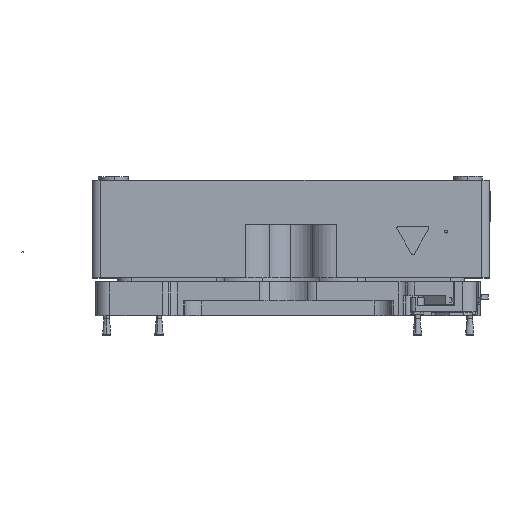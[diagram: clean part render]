
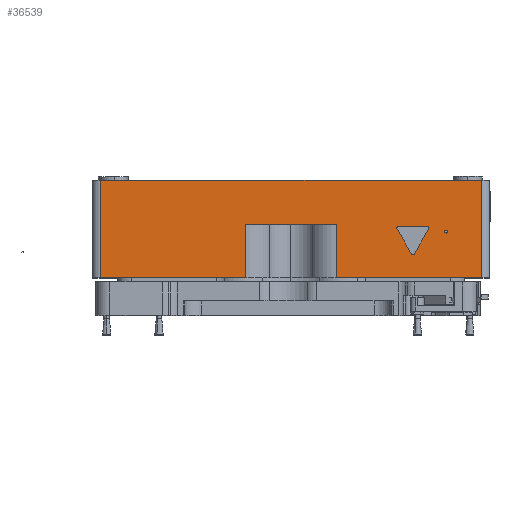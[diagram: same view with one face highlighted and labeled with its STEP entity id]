
A CAD part, top view. The second image highlights one B-rep face of the part: STEP entity #36539.
In plain terms, the highlighted planar face has unit normal (0, 0, 1).
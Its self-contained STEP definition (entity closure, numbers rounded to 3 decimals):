
#444 = CARTESIAN_POINT ( 'NONE',  ( -16.155, -15.7, 49.5 ) ) ;
#1051 = CARTESIAN_POINT ( 'NONE',  ( 16.155, -15.7, 49.5 ) ) ;
#1052 = EDGE_CURVE ( 'NONE', #11999, #14473, #28606, .T. ) ;
#1742 = CARTESIAN_POINT ( 'NONE',  ( -16.155, -2., 49.5 ) ) ;
#2023 = LINE ( 'NONE', #35227, #23018 ) ;
#2870 = EDGE_CURVE ( 'NONE', #9439, #3711, #19722, .T. ) ;
#3337 = LINE ( 'NONE', #8229, #35190 ) ;
#3711 = VERTEX_POINT ( 'NONE', #10918 ) ;
#3729 = CIRCLE ( 'NONE', #25207, 0.55 ) ;
#3753 = LINE ( 'NONE', #24051, #20013 ) ;
#5670 = VERTEX_POINT ( 'NONE', #40295 ) ;
#6147 = CARTESIAN_POINT ( 'NONE',  ( -68., -2., 49.5 ) ) ;
#6686 = EDGE_CURVE ( 'NONE', #27354, #13546, #2023, .T. ) ;
#7273 = FACE_BOUND ( 'NONE', #51134, .T. ) ;
#7835 = EDGE_CURVE ( 'NONE', #9439, #45697, #3753, .T. ) ;
#7922 = FACE_OUTER_BOUND ( 'NONE', #21134, .T. ) ;
#8229 = CARTESIAN_POINT ( 'NONE',  ( 16.155, -2., 49.5 ) ) ;
#9439 = VERTEX_POINT ( 'NONE', #12128 ) ;
#9720 = CARTESIAN_POINT ( 'NONE',  ( -68., -34.7, 49.5 ) ) ;
#10258 = DIRECTION ( 'NONE',  ( 0., 1., 0. ) ) ;
#10664 = DIRECTION ( 'NONE',  ( 0., -1., 0. ) ) ;
#10918 = CARTESIAN_POINT ( 'NONE',  ( 68., 0., 49.5 ) ) ;
#11520 = VECTOR ( 'NONE', #12932, 1000. ) ;
#11999 = VERTEX_POINT ( 'NONE', #49531 ) ;
#12128 = CARTESIAN_POINT ( 'NONE',  ( 68., -34.7, 49.5 ) ) ;
#12932 = DIRECTION ( 'NONE',  ( 1., 0., 0. ) ) ;
#12985 = DIRECTION ( 'NONE',  ( -1., 0., 0. ) ) ;
#13546 = VERTEX_POINT ( 'NONE', #444 ) ;
#14255 = DIRECTION ( 'NONE',  ( -1., 0., 0. ) ) ;
#14473 = VERTEX_POINT ( 'NONE', #9720 ) ;
#15326 = ORIENTED_EDGE ( 'NONE', *, *, #41380, .T. ) ;
#18375 = ORIENTED_EDGE ( 'NONE', *, *, #44623, .T. ) ;
#18932 = CIRCLE ( 'NONE', #40452, 0.55 ) ;
#19722 = LINE ( 'NONE', #20926, #54156 ) ;
#20013 = VECTOR ( 'NONE', #28383, 1000. ) ;
#20926 = CARTESIAN_POINT ( 'NONE',  ( 68., -2., 49.5 ) ) ;
#20986 = LINE ( 'NONE', #46619, #11520 ) ;
#21134 = EDGE_LOOP ( 'NONE', ( #44120, #18375, #26880, #37551, #25344, #15326, #50969, #21369 ) ) ;
#21247 = EDGE_CURVE ( 'NONE', #11999, #13546, #42724, .T. ) ;
#21369 = ORIENTED_EDGE ( 'NONE', *, *, #21247, .T. ) ;
#22007 = ORIENTED_EDGE ( 'NONE', *, *, #41192, .F. ) ;
#23018 = VECTOR ( 'NONE', #43640, 1000. ) ;
#24051 = CARTESIAN_POINT ( 'NONE',  ( -71., -34.7, 49.5 ) ) ;
#25207 = AXIS2_PLACEMENT_3D ( 'NONE', #53127, #44411, #49159 ) ;
#25344 = ORIENTED_EDGE ( 'NONE', *, *, #32556, .F. ) ;
#25630 = CARTESIAN_POINT ( 'NONE',  ( -71., -2., 49.5 ) ) ;
#26185 = AXIS2_PLACEMENT_3D ( 'NONE', #25630, #34515, #12985 ) ;
#26880 = ORIENTED_EDGE ( 'NONE', *, *, #7835, .F. ) ;
#27354 = VERTEX_POINT ( 'NONE', #1051 ) ;
#27449 = CARTESIAN_POINT ( 'NONE',  ( 16.155, -34.7, 49.5 ) ) ;
#28383 = DIRECTION ( 'NONE',  ( -1., 0., 0. ) ) ;
#28606 = LINE ( 'NONE', #54132, #47434 ) ;
#30572 = CARTESIAN_POINT ( 'NONE',  ( -68., 0., 49.5 ) ) ;
#32556 = EDGE_CURVE ( 'NONE', #46701, #3711, #20986, .T. ) ;
#34515 = DIRECTION ( 'NONE',  ( 0., 0., -1. ) ) ;
#34897 = LINE ( 'NONE', #6147, #42931 ) ;
#34944 = EDGE_CURVE ( 'NONE', #5670, #41463, #18932, .T. ) ;
#35190 = VECTOR ( 'NONE', #38649, 1000. ) ;
#35227 = CARTESIAN_POINT ( 'NONE',  ( -71., -15.7, 49.5 ) ) ;
#36539 = ADVANCED_FACE ( 'NONE', ( #7273, #7922 ), #42587, .F. ) ;
#37406 = DIRECTION ( 'NONE',  ( 1., 0., 0. ) ) ;
#37551 = ORIENTED_EDGE ( 'NONE', *, *, #2870, .T. ) ;
#38649 = DIRECTION ( 'NONE',  ( 0., -1., 0. ) ) ;
#40295 = CARTESIAN_POINT ( 'NONE',  ( 54.95, -18.25, 49.5 ) ) ;
#40452 = AXIS2_PLACEMENT_3D ( 'NONE', #49638, #45436, #37406 ) ;
#41192 = EDGE_CURVE ( 'NONE', #41463, #5670, #3729, .T. ) ;
#41380 = EDGE_CURVE ( 'NONE', #46701, #14473, #34897, .T. ) ;
#41463 = VERTEX_POINT ( 'NONE', #50464 ) ;
#42587 = PLANE ( 'NONE',  #26185 ) ;
#42724 = LINE ( 'NONE', #1742, #47401 ) ;
#42931 = VECTOR ( 'NONE', #10664, 1000. ) ;
#43640 = DIRECTION ( 'NONE',  ( -1., 0., 0. ) ) ;
#44120 = ORIENTED_EDGE ( 'NONE', *, *, #6686, .F. ) ;
#44411 = DIRECTION ( 'NONE',  ( 0., 0., 1. ) ) ;
#44623 = EDGE_CURVE ( 'NONE', #27354, #45697, #3337, .T. ) ;
#45436 = DIRECTION ( 'NONE',  ( 0., 0., 1. ) ) ;
#45697 = VERTEX_POINT ( 'NONE', #27449 ) ;
#46619 = CARTESIAN_POINT ( 'NONE',  ( -68., 0., 49.5 ) ) ;
#46701 = VERTEX_POINT ( 'NONE', #30572 ) ;
#47401 = VECTOR ( 'NONE', #10258, 1000. ) ;
#47434 = VECTOR ( 'NONE', #14255, 1000. ) ;
#48345 = ORIENTED_EDGE ( 'NONE', *, *, #34944, .F. ) ;
#49159 = DIRECTION ( 'NONE',  ( 1., 0., 0. ) ) ;
#49531 = CARTESIAN_POINT ( 'NONE',  ( -16.155, -34.7, 49.5 ) ) ;
#49638 = CARTESIAN_POINT ( 'NONE',  ( 55.5, -18.25, 49.5 ) ) ;
#50464 = CARTESIAN_POINT ( 'NONE',  ( 56.05, -18.25, 49.5 ) ) ;
#50969 = ORIENTED_EDGE ( 'NONE', *, *, #1052, .F. ) ;
#51134 = EDGE_LOOP ( 'NONE', ( #22007, #48345 ) ) ;
#53127 = CARTESIAN_POINT ( 'NONE',  ( 55.5, -18.25, 49.5 ) ) ;
#54132 = CARTESIAN_POINT ( 'NONE',  ( -71., -34.7, 49.5 ) ) ;
#54156 = VECTOR ( 'NONE', #55618, 1000. ) ;
#55618 = DIRECTION ( 'NONE',  ( 0., 1., 0. ) ) ;
